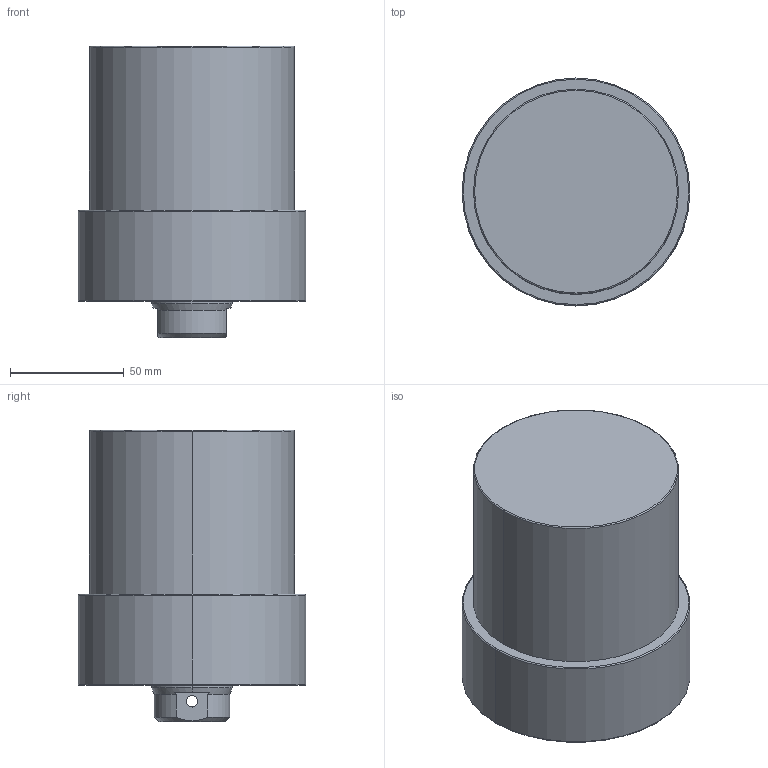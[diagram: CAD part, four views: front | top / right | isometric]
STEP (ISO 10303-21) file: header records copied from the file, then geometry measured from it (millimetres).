
FILE_DESCRIPTION (( 'STEP AP203' ), '1' );
FILE_NAME ('CLLU-090GB-050.STEP', '2020-01-11T00:58:27', ( '' ), ( '' ), 'SwSTEP 2.0', 'SolidWorks 2015', '' );
FILE_SCHEMA (( 'CONFIG_CONTROL_DESIGN' ));
Length unit declared in the file: millimetre
Products named in the file (1): CLLU-090GB-050
Bounding box: 100 x 100 x 128 mm (x, y, z)
Volume: 767504 mm3; surface area: 55330.1 mm2
Topology: 1 solids, 1 shells, 66 faces, 154 edges, 87 vertices
Faces by surface type: cylinder 26, cone 24, plane 10, torus 6
Entity records: 2029 total; most frequent: CARTESIAN_POINT 458, DIRECTION 342, ORIENTED_EDGE 288, EDGE_CURVE 144, AXIS2_PLACEMENT_3D 143, VERTEX_POINT 87, EDGE_LOOP 77, CIRCLE 76
